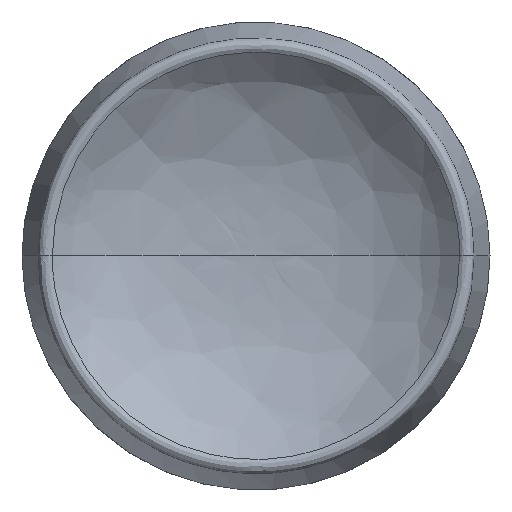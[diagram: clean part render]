
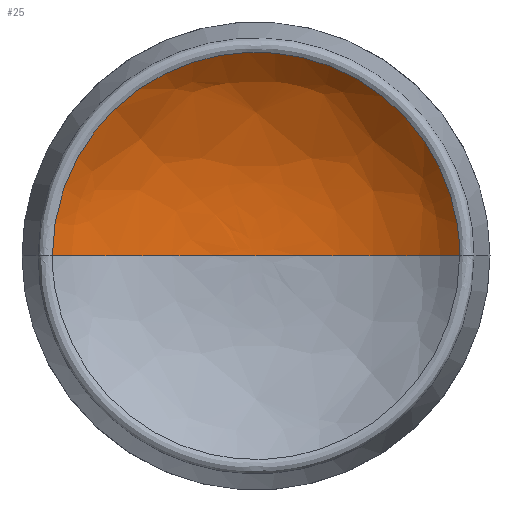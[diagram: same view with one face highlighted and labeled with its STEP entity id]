
A CAD part, top view. The second image highlights one B-rep face of the part: STEP entity #25.
In plain terms, the highlighted free-form (B-spline) face has degree [2, 3] with [5, 4] control points.
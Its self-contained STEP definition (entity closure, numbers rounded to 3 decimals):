
#25=ADVANCED_FACE('',(#43),#237,.T.);
#43=FACE_OUTER_BOUND('',#61,.T.);
#61=EDGE_LOOP('',(#80,#81,#82));
#80=ORIENTED_EDGE('',*,*,#167,.T.);
#81=ORIENTED_EDGE('',*,*,#148,.F.);
#82=ORIENTED_EDGE('',*,*,#157,.F.);
#148=EDGE_CURVE('',#217,#216,#210,.T.);
#157=EDGE_CURVE('',#224,#217,#189,.T.);
#167=EDGE_CURVE('',#224,#216,#213,.T.);
#189=(
BOUNDED_CURVE()
B_SPLINE_CURVE(2,(#871,#872,#873,#874,#875),.UNSPECIFIED.,.F.,.F.)
B_SPLINE_CURVE_WITH_KNOTS((3,2,3),(0.,151.726,303.452),
 .UNSPECIFIED.)
CURVE()
GEOMETRIC_REPRESENTATION_ITEM()
RATIONAL_B_SPLINE_CURVE((1.,0.707,1.,0.707,1.))
REPRESENTATION_ITEM('')
);
#210=B_SPLINE_CURVE_WITH_KNOTS('',3,(#834,#835,#836,#837),.UNSPECIFIED.,
 .F.,.F.,(4,4),(0.,103.799),.UNSPECIFIED.);
#213=B_SPLINE_CURVE_WITH_KNOTS('',3,(#914,#915,#916,#917),.UNSPECIFIED.,
 .F.,.F.,(4,4),(0.,103.799),.UNSPECIFIED.);
#216=VERTEX_POINT('',#815);
#217=VERTEX_POINT('',#816);
#224=VERTEX_POINT('',#823);
#237=(
BOUNDED_SURFACE()
B_SPLINE_SURFACE(2,3,((#283,#284,#285,#286),(#287,#288,#289,#290),(#291,
#292,#293,#294),(#295,#296,#297,#298),(#299,#300,#301,#302)),
 .UNSPECIFIED.,.F.,.F.,.F.)
B_SPLINE_SURFACE_WITH_KNOTS((3,2,3),(4,4),(0.,151.726,303.452),
(0.,103.799),.UNSPECIFIED.)
GEOMETRIC_REPRESENTATION_ITEM()
RATIONAL_B_SPLINE_SURFACE(((1.,1.,1.,1.),(0.707,0.707,
0.707,0.707),(1.,1.,1.,1.),(0.707,0.707,
0.707,0.707),(1.,1.,1.,1.)))
REPRESENTATION_ITEM('')
SURFACE()
);
#283=CARTESIAN_POINT('',(96.592,0.,34.748));
#284=CARTESIAN_POINT('',(71.551,0.,8.473));
#285=CARTESIAN_POINT('',(34.693,0.,6.));
#286=CARTESIAN_POINT('',(0.,0.,6.));
#287=CARTESIAN_POINT('',(96.592,96.592,34.748));
#288=CARTESIAN_POINT('',(71.551,71.551,8.473));
#289=CARTESIAN_POINT('',(34.693,34.693,6.));
#290=CARTESIAN_POINT('',(0.,0.,6.));
#291=CARTESIAN_POINT('',(0.,96.592,34.748));
#292=CARTESIAN_POINT('',(0.,71.551,8.473));
#293=CARTESIAN_POINT('',(0.,34.693,6.));
#294=CARTESIAN_POINT('',(0.,0.,6.));
#295=CARTESIAN_POINT('',(-96.592,96.592,34.748));
#296=CARTESIAN_POINT('',(-71.551,71.551,8.473));
#297=CARTESIAN_POINT('',(-34.693,34.693,6.));
#298=CARTESIAN_POINT('',(0.,0.,6.));
#299=CARTESIAN_POINT('',(-96.592,0.,34.748));
#300=CARTESIAN_POINT('',(-71.551,0.,8.473));
#301=CARTESIAN_POINT('',(-34.693,0.,6.));
#302=CARTESIAN_POINT('',(0.,0.,6.));
#815=CARTESIAN_POINT('',(0.,0.,6.));
#816=CARTESIAN_POINT('',(96.592,0.,34.748));
#823=CARTESIAN_POINT('',(-96.592,0.,34.748));
#834=CARTESIAN_POINT('',(96.592,0.,34.748));
#835=CARTESIAN_POINT('',(71.551,0.,8.473));
#836=CARTESIAN_POINT('',(34.693,0.,6.));
#837=CARTESIAN_POINT('',(0.,0.,6.));
#871=CARTESIAN_POINT('',(-96.592,0.,34.748));
#872=CARTESIAN_POINT('',(-96.592,96.592,34.748));
#873=CARTESIAN_POINT('',(0.,96.592,34.748));
#874=CARTESIAN_POINT('',(96.592,96.592,34.748));
#875=CARTESIAN_POINT('',(96.592,0.,34.748));
#914=CARTESIAN_POINT('',(-96.592,0.,34.748));
#915=CARTESIAN_POINT('',(-71.551,0.,8.473));
#916=CARTESIAN_POINT('',(-34.693,0.,6.));
#917=CARTESIAN_POINT('',(0.,0.,6.));
